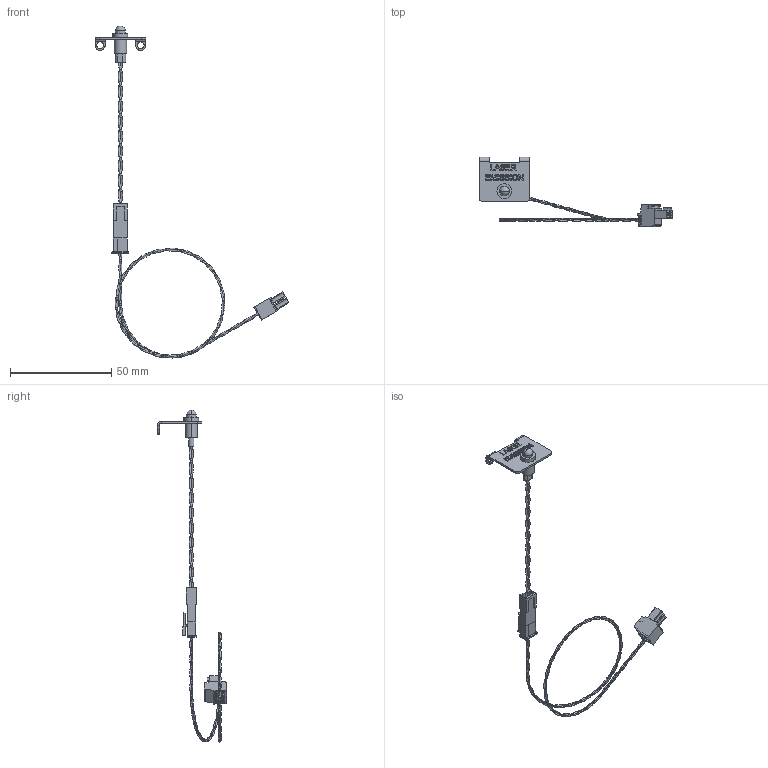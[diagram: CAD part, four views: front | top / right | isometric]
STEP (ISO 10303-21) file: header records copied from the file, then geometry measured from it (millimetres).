
FILE_DESCRIPTION (( 'STEP AP214' ), '1' );
FILE_NAME ('OBIS Emission Indicator.STEP', '2012-01-18T21:50:46', ( 'coherent' ), ( '' ), 'SwSTEP 2.0', 'SolidWorks 2012', '' );
FILE_SCHEMA (( 'AUTOMOTIVE_DESIGN' ));
Length unit declared in the file: inch
Products named in the file (1): OBIS Emission Indicator
Bounding box: 95.63 x 34.19 x 163.73 mm (x, y, z)
Surface area: 4954.4 mm2 (no closed solid volume)
Topology: 0 solids, 14 shells, 289 faces, 1088 edges, 791 vertices
Faces by surface type: plane 185, cylinder 69, bspline 29, torus 4, sphere 2
Entity records: 33950 total; most frequent: CARTESIAN_POINT 21529, ORIENTED_EDGE 1702, DIRECTION 1594, EDGE_CURVE 1082, VERTEX_POINT 789, LINE 712, VECTOR 712, AXIS2_PLACEMENT_3D 441
